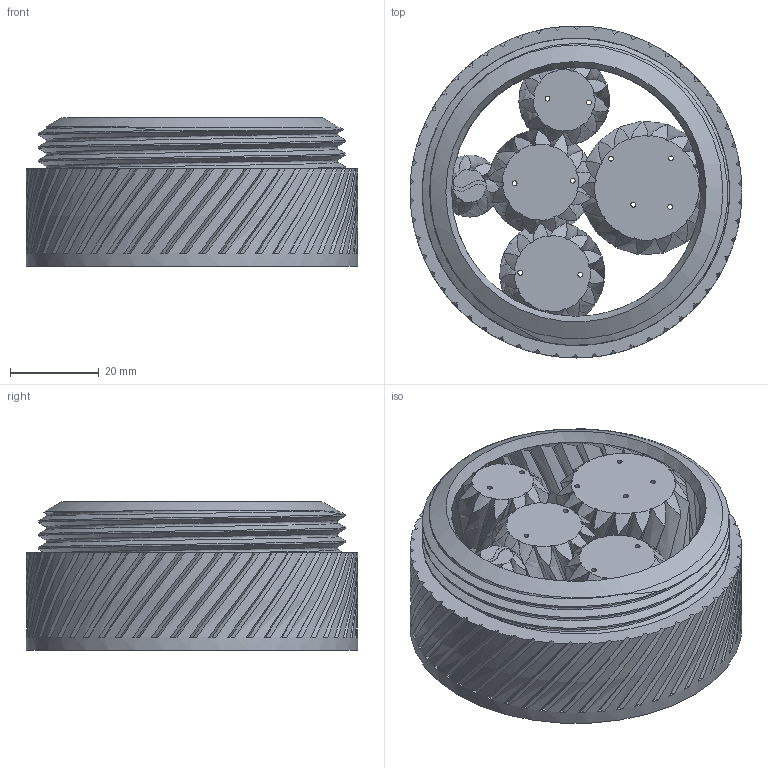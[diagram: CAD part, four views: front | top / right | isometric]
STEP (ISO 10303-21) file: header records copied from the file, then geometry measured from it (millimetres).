
FILE_DESCRIPTION(/* description */ ('STEP AP242','CAx-IF Rec.Pracs.---Representation and Presentation of Product Manufacturing Information (PMI)---4.0---2014-10-13','CAx-IF Rec.Pracs.---3D Tessellated Geometry---0.4---2014-09-14','2;1'),/* implementation_level */ '2;1');
FILE_NAME(/* name */ '64756ec13074683142f1db7c',/* time_stamp */ '2023-05-30T03:34:26Z',/* author */ (''),/* organization */ (''),/* preprocessor_version */ 'ST-DEVELOPER v19.4',/* originating_system */ ' ',/* authorisation */ ' ');
FILE_SCHEMA (('AP242_MANAGED_MODEL_BASED_3D_ENGINEERING_MIM_LF { 1 0 10303 442 1 1 4 }'));
Length unit declared in the file: metre
Products named in the file (6): id2; id5; id8; id11; id14; id17
Bounding box: 74.9 x 74.9 x 33.58 mm (x, y, z)
Volume: 89062.4 mm3; surface area: 45215.8 mm2
Topology: 6 solids, 6 shells, 911 faces, 2436 edges, 1541 vertices
Faces by surface type: bspline 627, cone 141, plane 74, cylinder 69
Full cylindrical faces by diameter (mm): 1.1 x10, 1.8 x10, 2.85 x4, 74.9 x1
Entity records: 116479 total; most frequent: CARTESIAN_POINT 100089, ORIENTED_EDGE 4752, EDGE_CURVE 2376, DIRECTION 1578, VERTEX_POINT 1528, B_SPLINE_CURVE_WITH_KNOTS 1458, EDGE_LOOP 976, FACE_BOUND 976
